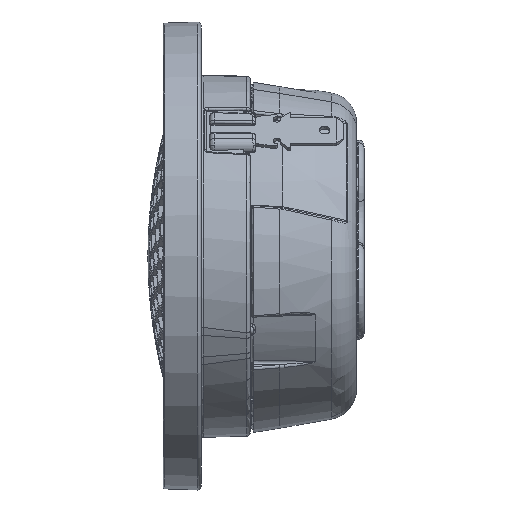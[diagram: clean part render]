
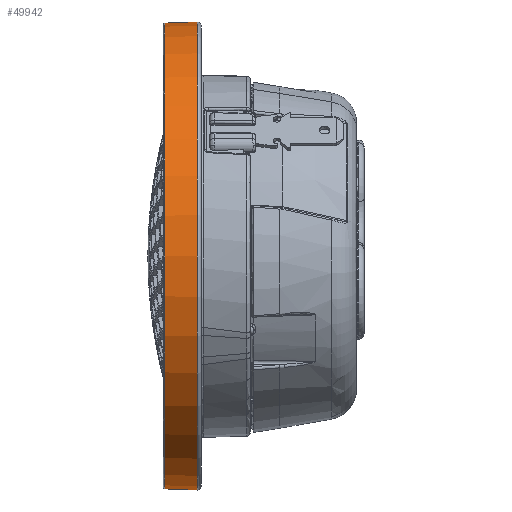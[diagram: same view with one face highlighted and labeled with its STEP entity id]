
A CAD part, left-side view. The second image highlights one B-rep face of the part: STEP entity #49942.
In plain terms, the highlighted conical face has half-angle 2 degrees and reference radius 30.85 mm.
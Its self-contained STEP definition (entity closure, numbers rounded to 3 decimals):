
#249 = VECTOR ( 'NONE', #40215, 1000. ) ;
#4701 = AXIS2_PLACEMENT_3D ( 'NONE', #70598, #8243, #54739 ) ;
#5323 = DIRECTION ( 'NONE',  ( 0., -0.999, 0.035 ) ) ;
#6792 = ORIENTED_EDGE ( 'NONE', *, *, #92392, .T. ) ;
#8239 = DIRECTION ( 'NONE',  ( 0., -1., 0. ) ) ;
#8243 = DIRECTION ( 'NONE',  ( 0., 1., 0. ) ) ;
#9660 = LINE ( 'NONE', #16270, #249 ) ;
#12605 = EDGE_CURVE ( 'NONE', #52923, #21498, #9660, .T. ) ;
#16270 = CARTESIAN_POINT ( 'NONE',  ( 0., 20.477, -30.85 ) ) ;
#17698 = EDGE_LOOP ( 'NONE', ( #6792, #90478, #43639, #38245 ) ) ;
#21498 = VERTEX_POINT ( 'NONE', #26667 ) ;
#24377 = AXIS2_PLACEMENT_3D ( 'NONE', #40916, #55845, #64002 ) ;
#26667 = CARTESIAN_POINT ( 'NONE',  ( 0., 20.995, -30.832 ) ) ;
#28289 = AXIS2_PLACEMENT_3D ( 'NONE', #31174, #8239, #62405 ) ;
#29051 = CIRCLE ( 'NONE', #4701, 30.832 ) ;
#31098 = EDGE_CURVE ( 'NONE', #37505, #88677, #59470, .T. ) ;
#31174 = CARTESIAN_POINT ( 'NONE',  ( 0., 20.477, 0. ) ) ;
#37505 = VERTEX_POINT ( 'NONE', #69101 ) ;
#38245 = ORIENTED_EDGE ( 'NONE', *, *, #31098, .F. ) ;
#40215 = DIRECTION ( 'NONE',  ( 0., -0.999, -0.035 ) ) ;
#40916 = CARTESIAN_POINT ( 'NONE',  ( 0., 25.284, 0. ) ) ;
#43639 = ORIENTED_EDGE ( 'NONE', *, *, #53717, .T. ) ;
#47511 = FACE_OUTER_BOUND ( 'NONE', #17698, .T. ) ;
#49942 = ADVANCED_FACE ( 'NONE', ( #47511 ), #82307, .T. ) ;
#52781 = CARTESIAN_POINT ( 'NONE',  ( 0., 20.477, 30.85 ) ) ;
#52923 = VERTEX_POINT ( 'NONE', #57219 ) ;
#53717 = EDGE_CURVE ( 'NONE', #21498, #88677, #29051, .T. ) ;
#54739 = DIRECTION ( 'NONE',  ( 0., 0., -1. ) ) ;
#55845 = DIRECTION ( 'NONE',  ( 0., -1., 0. ) ) ;
#57219 = CARTESIAN_POINT ( 'NONE',  ( 0., 25.284, -30.682 ) ) ;
#59470 = LINE ( 'NONE', #52781, #83948 ) ;
#62405 = DIRECTION ( 'NONE',  ( 0., 0., 1. ) ) ;
#64002 = DIRECTION ( 'NONE',  ( 0., 0., 1. ) ) ;
#64943 = CARTESIAN_POINT ( 'NONE',  ( 0., 20.995, 30.832 ) ) ;
#65275 = CIRCLE ( 'NONE', #24377, 30.682 ) ;
#69101 = CARTESIAN_POINT ( 'NONE',  ( 0., 25.284, 30.682 ) ) ;
#70598 = CARTESIAN_POINT ( 'NONE',  ( 0., 20.995, 0. ) ) ;
#82307 = CONICAL_SURFACE ( 'NONE', #28289, 30.85, 0.035 ) ;
#83948 = VECTOR ( 'NONE', #5323, 1000. ) ;
#88677 = VERTEX_POINT ( 'NONE', #64943 ) ;
#90478 = ORIENTED_EDGE ( 'NONE', *, *, #12605, .T. ) ;
#92392 = EDGE_CURVE ( 'NONE', #37505, #52923, #65275, .T. ) ;
